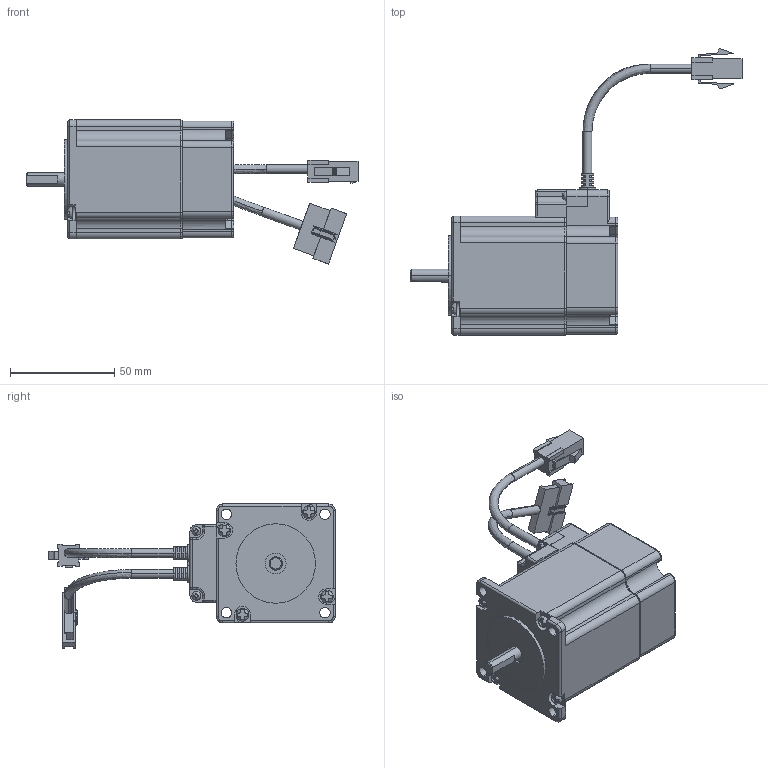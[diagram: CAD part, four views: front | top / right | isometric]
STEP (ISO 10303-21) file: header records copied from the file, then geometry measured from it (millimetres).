
FILE_DESCRIPTION (( 'STEP AP203' ), '1' );
FILE_NAME ('M11-MO-056-02-R00.STEP', '2014-12-21T05:34:24', ( 'Registered User' ), ( 'Microsoft Corporation' ), 'SwSTEP 2.0', 'SolidWorks 2013', '' );
FILE_SCHEMA (( 'CONFIG_CONTROL_DESIGN' ));
Length unit declared in the file: millimetre
Products named in the file (10): MainM3-screw-1; Maincable-1-1; Mainconnector_e-1-4; MainEzM-56S-assembly-1; EzM-56S Aassembly_091218; M11-MO-056-02-R00(EzM-56M-01); M11-MO-056-02-R00; MainEZSV_56_Cable_Cover-1-1; MainEZSV_56_Encoder_Cover-1-1; MainEncoder_Mounting_Plate-1-1
Assembly tree (14 placements, depth 4):
  M11-MO-056-02-R00
    M11-MO-056-02-R00(EzM-56M-01)
    EzM-56S Aassembly_091218
      MainEzM-56S-assembly-1
        MainEZSV_56_Cable_Cover-1-1
        MainEZSV_56_Encoder_Cover-1-1
        MainEncoder_Mounting_Plate-1-1
        MainM3-screw-1  x6
        Maincable-1-1
        Mainconnector_e-1-4
Bounding box: 159 x 137.16 x 68.99 mm (x, y, z)
Volume: 190837.4 mm3; surface area: 53352.6 mm2
Topology: 16 solids, 16 shells, 907 faces, 2388 edges, 1542 vertices
Faces by surface type: plane 494, cylinder 340, bspline 68, cone 5
Entity records: 29069 total; most frequent: CARTESIAN_POINT 8401, ORIENTED_EDGE 4152, DIRECTION 3928, EDGE_CURVE 2076, AXIS2_PLACEMENT_3D 1355, VERTEX_POINT 1352, LINE 1218, VECTOR 1218
